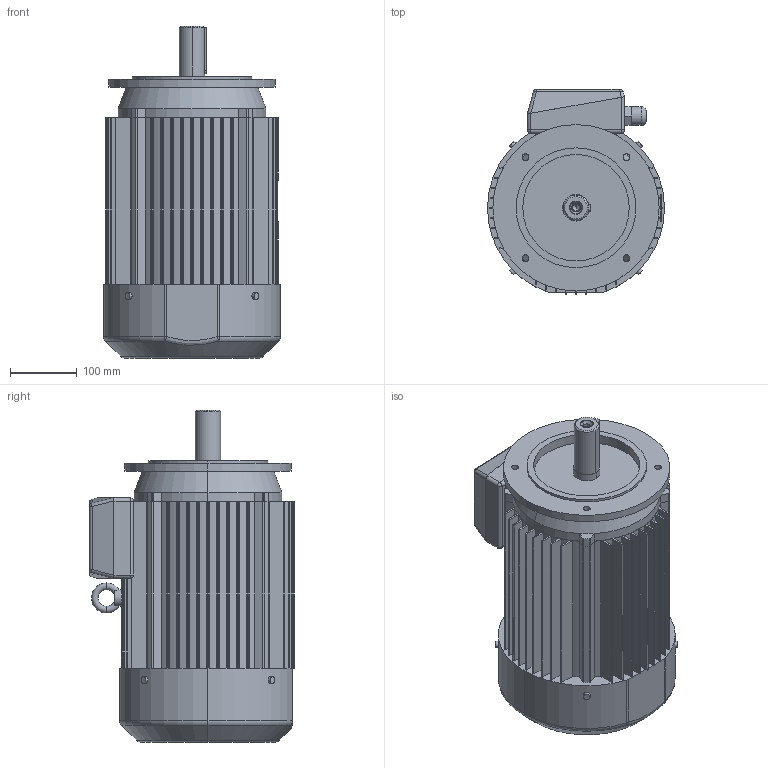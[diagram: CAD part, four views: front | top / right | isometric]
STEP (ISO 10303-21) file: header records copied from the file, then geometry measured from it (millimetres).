
FILE_DESCRIPTION (( 'STEP AP203' ), '1' );
FILE_NAME ('2SIEK132S2B,4-B14-C1.STEP', '2013-01-07T13:22:07', ( 'INDUKTA' ), ( 'CANTONI MOTOR' ), 'SwSTEP 2.0', 'SolidWorks 2003064', '' );
FILE_SCHEMA (( 'CONFIG_CONTROL_DESIGN' ));
Length unit declared in the file: millimetre
Products named in the file (1): 2SIEK132S2B,4-B14-C1
Bounding box: 266 x 308 x 499 mm (x, y, z)
Volume: 19554782.5 mm3; surface area: 1039487.4 mm2
Topology: 12 solids, 12 shells, 390 faces, 1034 edges, 655 vertices
Faces by surface type: cylinder 186, plane 166, cone 14, torus 13, sphere 10, bspline 1
Entity records: 12894 total; most frequent: CARTESIAN_POINT 2934, DIRECTION 2170, ORIENTED_EDGE 2044, EDGE_CURVE 1022, AXIS2_PLACEMENT_3D 795, VERTEX_POINT 655, LINE 580, VECTOR 580
